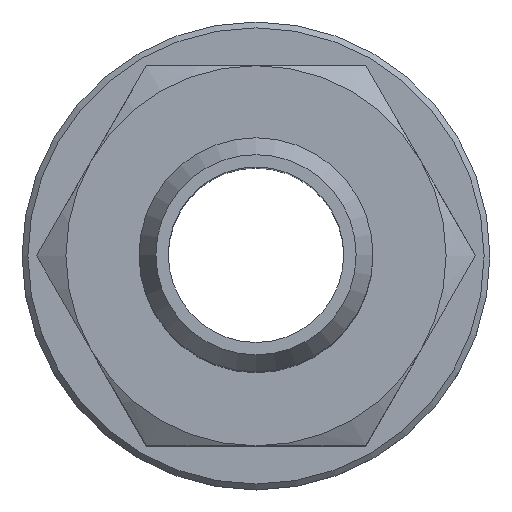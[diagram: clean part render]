
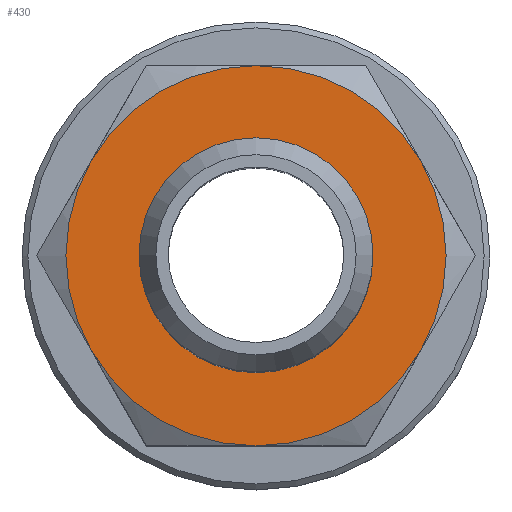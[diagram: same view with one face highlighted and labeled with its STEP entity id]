
A CAD part, top view. The second image highlights one B-rep face of the part: STEP entity #430.
In plain terms, the highlighted planar face has unit normal (0, 0, 1).
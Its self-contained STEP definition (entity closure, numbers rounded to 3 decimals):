
#430=ADVANCED_FACE('', (#440,#450), #460, .T.);
#2000=AXIS2_PLACEMENT_3D('Ax2Pl3d', #2010, #2020, #2030);
#2360=AXIS2_PLACEMENT_3D('Ax2Pl3d', #2370, #2380, #2390);
#2400=AXIS2_PLACEMENT_3D('Ax2Pl3d', #2410, #2420, #2430);
#2440=AXIS2_PLACEMENT_3D('Ax2Pl3d', #2450, #2460, #2470);
#2480=AXIS2_PLACEMENT_3D('Ax2Pl3d', #2490, #2500, #2510);
#2520=AXIS2_PLACEMENT_3D('Ax2Pl3d', #2530, #2540, #2550);
#2560=AXIS2_PLACEMENT_3D('Ax2Pl3d', #2570, #2580, #2590);
#2600=AXIS2_PLACEMENT_3D('Ax2Pl3d', #2610, #2620, #2630);
#2010=CARTESIAN_POINT('HicPkt', (11.385,13.163,
20.631));
#6260=CARTESIAN_POINT('', (17.014,9.913,20.631));
#6270=CARTESIAN_POINT('', (11.385,6.663,20.631));
#6310=CARTESIAN_POINT('', (5.756,16.413,20.631));
#6340=CARTESIAN_POINT('', (11.385,19.663,20.631));
#6370=CARTESIAN_POINT('', (17.014,16.413,20.631));
#6430=CARTESIAN_POINT('', (5.756,9.913,20.631));
#2370=CARTESIAN_POINT('HicPkt', (17.885,13.163,
20.631));
#2410=CARTESIAN_POINT('HicPkt', (11.385,13.163,
20.631));
#2450=CARTESIAN_POINT('HicPkt', (11.385,13.163,
20.631));
#2490=CARTESIAN_POINT('HicPkt', (11.385,13.163,
20.631));
#2530=CARTESIAN_POINT('HicPkt', (11.385,13.163,
20.631));
#2570=CARTESIAN_POINT('HicPkt', (11.385,13.163,
20.631));
#2610=CARTESIAN_POINT('HicPkt', (11.385,13.163,
20.631));
#6450=CARTESIAN_POINT('', (11.385,17.163,20.631));
#6760=CIRCLE('Circle', #2000, 6.5);
#6780=CIRCLE('Circle', #2400, 6.5);
#6790=CIRCLE('Circle', #2440, 6.5);
#6800=CIRCLE('Circle', #2480, 6.5);
#6810=CIRCLE('Circle', #2520, 6.5);
#6820=CIRCLE('Circle', #2560, 6.5);
#6830=CIRCLE('Circle', #2600, 4.);
#2020=DIRECTION('Axis', (0.,0.,-1.));
#2030=DIRECTION('RefDirection', (-1.,-0.,0.));
#2380=DIRECTION('Axis', (0.,0.,1.));
#2390=DIRECTION('RefDirection', (1.,0.,-0.));
#2420=DIRECTION('Axis', (0.,0.,-1.));
#2430=DIRECTION('RefDirection', (-1.,-0.,0.));
#2460=DIRECTION('Axis', (0.,0.,-1.));
#2470=DIRECTION('RefDirection', (-1.,-0.,0.));
#2500=DIRECTION('Axis', (0.,0.,-1.));
#2510=DIRECTION('RefDirection', (-1.,-0.,0.));
#2540=DIRECTION('Axis', (0.,0.,-1.));
#2550=DIRECTION('RefDirection', (-1.,-0.,0.));
#2580=DIRECTION('Axis', (0.,0.,-1.));
#2590=DIRECTION('RefDirection', (-1.,-0.,0.));
#2620=DIRECTION('Axis', (0.,0.,1.));
#2630=DIRECTION('RefDirection', (1.,0.,-0.));
#9410=EDGE_CURVE('', #9420, #9430, #6760, .T.);
#9800=EDGE_CURVE('', #9630, #9420, #6780, .T.);
#9810=EDGE_CURVE('', #9570, #9630, #6790, .T.);
#9820=EDGE_CURVE('', #9510, #9570, #6800, .T.);
#9830=EDGE_CURVE('', #9760, #9510, #6810, .T.);
#9840=EDGE_CURVE('', #9430, #9760, #6820, .T.);
#9850=EDGE_CURVE('', #9860, #9860, #6830, .T.);
#11020=EDGE_LOOP('Edge_loop', (#11030,#11040,#11050,#11060,#11070,
#11080));
#11090=EDGE_LOOP('Edge_loop', (#11100));
#450=FACE_BOUND('', #11090, .T.);
#440=FACE_OUTER_BOUND('Face_outer_bound', #11020, .T.);
#11030=ORIENTED_EDGE('', *, *, #9410, .F.);
#11040=ORIENTED_EDGE('', *, *, #9800, .F.);
#11050=ORIENTED_EDGE('', *, *, #9810, .F.);
#11060=ORIENTED_EDGE('', *, *, #9820, .F.);
#11070=ORIENTED_EDGE('', *, *, #9830, .F.);
#11080=ORIENTED_EDGE('', *, *, #9840, .F.);
#11100=ORIENTED_EDGE('', *, *, #9850, .F.);
#460=PLANE('Plane', #2360);
#9420=VERTEX_POINT('', #6260);
#9430=VERTEX_POINT('', #6270);
#9510=VERTEX_POINT('', #6310);
#9570=VERTEX_POINT('', #6340);
#9630=VERTEX_POINT('', #6370);
#9760=VERTEX_POINT('', #6430);
#9860=VERTEX_POINT('', #6450);
